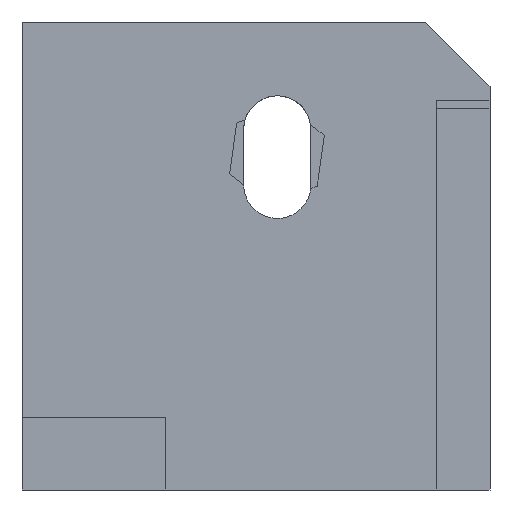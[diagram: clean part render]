
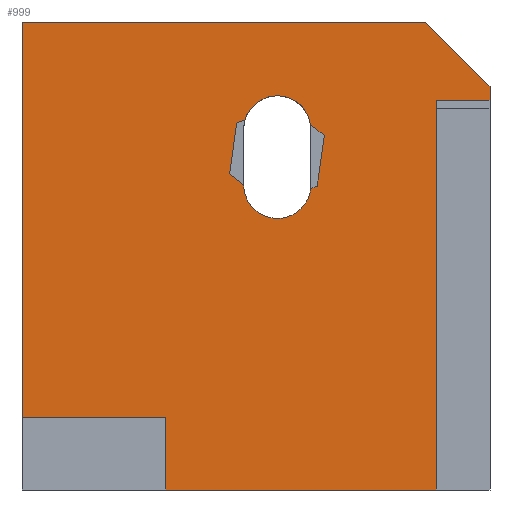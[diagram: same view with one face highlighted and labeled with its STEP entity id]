
A CAD part, left-side view. The second image highlights one B-rep face of the part: STEP entity #999.
In plain terms, the highlighted planar face has unit normal (-1, 0, 0).
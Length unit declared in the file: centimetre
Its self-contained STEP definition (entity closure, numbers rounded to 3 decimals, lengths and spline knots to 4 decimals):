
#1 = VERTEX_POINT ( 'NONE', #1086 ) ;
#2 = CARTESIAN_POINT ( 'NONE',  ( 0., 383.6776, 780.7083 ) ) ;
#6 = ORIENTED_EDGE ( 'NONE', *, *, #795, .F. ) ;
#25 = CARTESIAN_POINT ( 'NONE',  ( 0., 1000., 153.8963 ) ) ;
#37 = LINE ( 'NONE', #1087, #1344 ) ;
#43 = LINE ( 'NONE', #1188, #372 ) ;
#54 = LINE ( 'NONE', #1616, #213 ) ;
#59 = LINE ( 'NONE', #684, #424 ) ;
#67 = ORIENTED_EDGE ( 'NONE', *, *, #110, .F. ) ;
#68 = DIRECTION ( 'NONE',  ( 0., 0., 1. ) ) ;
#73 = CARTESIAN_POINT ( 'NONE',  ( 0., 1000., 1000. ) ) ;
#86 = CARTESIAN_POINT ( 'NONE',  ( 0., 0., 832.3437 ) ) ;
#98 = CARTESIAN_POINT ( 'NONE',  ( 0., 454.6598, 770.6199 ) ) ;
#110 = EDGE_CURVE ( 'NONE', #253, #857, #928, .T. ) ;
#123 = LINE ( 'NONE', #1038, #1199 ) ;
#148 = ORIENTED_EDGE ( 'NONE', *, *, #1366, .F. ) ;
#152 = VECTOR ( 'NONE', #1308, 100. ) ;
#172 = LINE ( 'NONE', #274, #700 ) ;
#208 = VERTEX_POINT ( 'NONE', #578 ) ;
#211 = EDGE_CURVE ( 'NONE', #612, #503, #1375, .T. ) ;
#213 = VECTOR ( 'NONE', #1516, 100. ) ;
#228 = DIRECTION ( 'NONE',  ( 0., -1., 0. ) ) ;
#237 = EDGE_CURVE ( 'NONE', #1674, #653, #54, .T. ) ;
#240 = EDGE_CURVE ( 'NONE', #1499, #1654, #321, .T. ) ;
#253 = VERTEX_POINT ( 'NONE', #1382 ) ;
#273 = DIRECTION ( 'NONE',  ( 0., 0.789, 0.615 ) ) ;
#274 = CARTESIAN_POINT ( 'NONE',  ( 0., 556.3865, 675.58 ) ) ;
#281 = CARTESIAN_POINT ( 'NONE',  ( 0., 454.417, 652.1618 ) ) ;
#283 = ORIENTED_EDGE ( 'NONE', *, *, #1261, .F. ) ;
#299 = CARTESIAN_POINT ( 'NONE',  ( 0., 382.9642, 643.8167 ) ) ;
#314 = VECTOR ( 'NONE', #228, 100. ) ;
#321 = LINE ( 'NONE', #1522, #900 ) ;
#335 = EDGE_CURVE ( 'NONE', #1098, #400, #909, .T. ) ;
#346 = CARTESIAN_POINT ( 'NONE',  ( 0., 115.0697, 832.3437 ) ) ;
#359 = DIRECTION ( 'NONE',  ( 0., 0., 1. ) ) ;
#372 = VECTOR ( 'NONE', #1322, 100. ) ;
#400 = VERTEX_POINT ( 'NONE', #346 ) ;
#424 = VECTOR ( 'NONE', #1084, 100. ) ;
#465 = VERTEX_POINT ( 'NONE', #830 ) ;
#466 = CARTESIAN_POINT ( 'NONE',  ( 0., 1000., 1000. ) ) ;
#468 = CARTESIAN_POINT ( 'NONE',  ( 0., 692.6911, 153.8963 ) ) ;
#469 = ORIENTED_EDGE ( 'NONE', *, *, #851, .F. ) ;
#497 = CARTESIAN_POINT ( 'NONE',  ( 0., 454.6598, 770.6199 ) ) ;
#503 = VERTEX_POINT ( 'NONE', #1202 ) ;
#533 = DIRECTION ( 'NONE',  ( 0., 0., 1. ) ) ;
#540 = VERTEX_POINT ( 'NONE', #1103 ) ;
#554 = EDGE_CURVE ( 'NONE', #465, #1098, #59, .T. ) ;
#578 = CARTESIAN_POINT ( 'NONE',  ( 0., 556.3865, 675.58 ) ) ;
#582 = VERTEX_POINT ( 'NONE', #1388 ) ;
#583 = CARTESIAN_POINT ( 'NONE',  ( 0., 1000., 0. ) ) ;
#593 = PLANE ( 'NONE',  #785 ) ;
#610 = CARTESIAN_POINT ( 'NONE',  ( 0., 454.6598, 842.3155 ) ) ;
#612 = VERTEX_POINT ( 'NONE', #466 ) ;
#628 = ORIENTED_EDGE ( 'NONE', *, *, #661, .T. ) ;
#634 = EDGE_CURVE ( 'NONE', #540, #1499, #1012, .T. ) ;
#637 = ORIENTED_EDGE ( 'NONE', *, *, #1618, .T. ) ;
#642 = EDGE_CURVE ( 'NONE', #664, #1, #1229, .T. ) ;
#643 = DIRECTION ( 'NONE',  ( 0., 0., -1. ) ) ;
#652 = CARTESIAN_POINT ( 'NONE',  ( 0., 115.0697, 0. ) ) ;
#653 = VERTEX_POINT ( 'NONE', #1254 ) ;
#661 = EDGE_CURVE ( 'NONE', #540, #1119, #865, .T. ) ;
#664 = VERTEX_POINT ( 'NONE', #610 ) ;
#666 = ORIENTED_EDGE ( 'NONE', *, *, #240, .F. ) ;
#672 = DIRECTION ( 'NONE',  ( -1., 0., 0. ) ) ;
#684 = CARTESIAN_POINT ( 'NONE',  ( 0., 0., 1000. ) ) ;
#689 = DIRECTION ( 'NONE',  ( 0., -0.789, -0.615 ) ) ;
#699 = DIRECTION ( 'NONE',  ( 0., -1., 0. ) ) ;
#700 = VECTOR ( 'NONE', #689, 100. ) ;
#707 = ORIENTED_EDGE ( 'NONE', *, *, #554, .F. ) ;
#725 = DIRECTION ( 'NONE',  ( 1., 0., 0. ) ) ;
#763 = AXIS2_PLACEMENT_3D ( 'NONE', #281, #672, #533 ) ;
#779 = LINE ( 'NONE', #1417, #927 ) ;
#785 = AXIS2_PLACEMENT_3D ( 'NONE', #73, #725, #1129 ) ;
#795 = EDGE_CURVE ( 'NONE', #653, #253, #123, .T. ) ;
#830 = CARTESIAN_POINT ( 'NONE',  ( 0., 0., 861.7948 ) ) ;
#838 = EDGE_CURVE ( 'NONE', #465, #503, #1063, .T. ) ;
#851 = EDGE_CURVE ( 'NONE', #857, #664, #896, .T. ) ;
#855 = ORIENTED_EDGE ( 'NONE', *, *, #838, .T. ) ;
#856 = CARTESIAN_POINT ( 'NONE',  ( 0., 0., 832.3437 ) ) ;
#857 = VERTEX_POINT ( 'NONE', #2 ) ;
#865 = LINE ( 'NONE', #583, #314 ) ;
#886 = LINE ( 'NONE', #1673, #953 ) ;
#888 = ORIENTED_EDGE ( 'NONE', *, *, #1659, .F. ) ;
#896 = CIRCLE ( 'NONE', #1036, 71.6956 ) ;
#900 = VECTOR ( 'NONE', #970, 100. ) ;
#907 = DIRECTION ( 'NONE',  ( 0., -0.138, 0.99 ) ) ;
#909 = LINE ( 'NONE', #86, #1282 ) ;
#927 = VECTOR ( 'NONE', #1311, 100. ) ;
#928 = LINE ( 'NONE', #1455, #986 ) ;
#953 = VECTOR ( 'NONE', #643, 100. ) ;
#970 = DIRECTION ( 'NONE',  ( 0., 1., 0. ) ) ;
#976 = ORIENTED_EDGE ( 'NONE', *, *, #1337, .F. ) ;
#984 = ORIENTED_EDGE ( 'NONE', *, *, #642, .F. ) ;
#986 = VECTOR ( 'NONE', #273, 100. ) ;
#999 = ADVANCED_FACE ( 'NONE', ( #1661, #1252 ), #593, .F. ) ;
#1012 = LINE ( 'NONE', #1663, #1092 ) ;
#1036 = AXIS2_PLACEMENT_3D ( 'NONE', #497, #1170, #359 ) ;
#1038 = CARTESIAN_POINT ( 'NONE',  ( 0., 369.0962, 649.4346 ) ) ;
#1042 = DIRECTION ( 'NONE',  ( 0., 1., 0. ) ) ;
#1060 = CARTESIAN_POINT ( 'NONE',  ( 0., 526.3554, 652.1618 ) ) ;
#1063 = LINE ( 'NONE', #1178, #152 ) ;
#1084 = DIRECTION ( 'NONE',  ( 0., 0., -1. ) ) ;
#1086 = CARTESIAN_POINT ( 'NONE',  ( 0., 523.411, 790.9555 ) ) ;
#1087 = CARTESIAN_POINT ( 'NONE',  ( 0., 541.2915, 783.7121 ) ) ;
#1092 = VECTOR ( 'NONE', #1397, 100. ) ;
#1098 = VERTEX_POINT ( 'NONE', #856 ) ;
#1103 = CARTESIAN_POINT ( 'NONE',  ( 0., 692.6911, 0. ) ) ;
#1104 = EDGE_CURVE ( 'NONE', #400, #1119, #886, .T. ) ;
#1119 = VERTEX_POINT ( 'NONE', #652 ) ;
#1129 = DIRECTION ( 'NONE',  ( 0., 0., -1. ) ) ;
#1170 = DIRECTION ( 'NONE',  ( -1., 0., 0. ) ) ;
#1173 = ORIENTED_EDGE ( 'NONE', *, *, #237, .F. ) ;
#1178 = CARTESIAN_POINT ( 'NONE',  ( 0., 138.2052, 1000. ) ) ;
#1188 = CARTESIAN_POINT ( 'NONE',  ( 0., 440.0988, 824.7055 ) ) ;
#1199 = VECTOR ( 'NONE', #907, 100. ) ;
#1202 = CARTESIAN_POINT ( 'NONE',  ( 0., 138.2052, 1000. ) ) ;
#1227 = EDGE_LOOP ( 'NONE', ( #628, #1680, #1501, #707, #855, #1394, #637, #666, #1646 ) ) ;
#1229 = CIRCLE ( 'NONE', #1446, 71.6956 ) ;
#1252 = FACE_OUTER_BOUND ( 'NONE', #1227, .T. ) ;
#1254 = CARTESIAN_POINT ( 'NONE',  ( 0., 369.0962, 649.4346 ) ) ;
#1257 = CARTESIAN_POINT ( 'NONE',  ( 0., 1000., 1000. ) ) ;
#1261 = EDGE_CURVE ( 'NONE', #1263, #1674, #1696, .T. ) ;
#1263 = VERTEX_POINT ( 'NONE', #1060 ) ;
#1267 = DIRECTION ( 'NONE',  ( -1., 0., 0. ) ) ;
#1282 = VECTOR ( 'NONE', #1042, 100. ) ;
#1293 = VECTOR ( 'NONE', #699, 100. ) ;
#1308 = DIRECTION ( 'NONE',  ( 0., 0.707, 0.707 ) ) ;
#1311 = DIRECTION ( 'NONE',  ( 0., 0., -1. ) ) ;
#1322 = DIRECTION ( 'NONE',  ( 0., 0.927, -0.375 ) ) ;
#1329 = DIRECTION ( 'NONE',  ( 0., 0.138, -0.99 ) ) ;
#1337 = EDGE_CURVE ( 'NONE', #582, #208, #37, .T. ) ;
#1344 = VECTOR ( 'NONE', #1329, 100. ) ;
#1366 = EDGE_CURVE ( 'NONE', #208, #1263, #172, .T. ) ;
#1375 = LINE ( 'NONE', #1257, #1293 ) ;
#1382 = CARTESIAN_POINT ( 'NONE',  ( 0., 354.0012, 757.5668 ) ) ;
#1388 = CARTESIAN_POINT ( 'NONE',  ( 0., 541.2915, 783.7121 ) ) ;
#1394 = ORIENTED_EDGE ( 'NONE', *, *, #211, .F. ) ;
#1397 = DIRECTION ( 'NONE',  ( 0., 0., 1. ) ) ;
#1417 = CARTESIAN_POINT ( 'NONE',  ( 0., 1000., 1000. ) ) ;
#1446 = AXIS2_PLACEMENT_3D ( 'NONE', #98, #1267, #68 ) ;
#1455 = CARTESIAN_POINT ( 'NONE',  ( 0., 354.0012, 757.5668 ) ) ;
#1499 = VERTEX_POINT ( 'NONE', #468 ) ;
#1501 = ORIENTED_EDGE ( 'NONE', *, *, #335, .F. ) ;
#1516 = DIRECTION ( 'NONE',  ( 0., -0.927, 0.375 ) ) ;
#1522 = CARTESIAN_POINT ( 'NONE',  ( 0., 692.6911, 153.8963 ) ) ;
#1560 = EDGE_LOOP ( 'NONE', ( #1173, #283, #148, #976, #888, #984, #469, #67, #6 ) ) ;
#1616 = CARTESIAN_POINT ( 'NONE',  ( 0., 470.2889, 608.4413 ) ) ;
#1618 = EDGE_CURVE ( 'NONE', #612, #1654, #779, .T. ) ;
#1646 = ORIENTED_EDGE ( 'NONE', *, *, #634, .F. ) ;
#1654 = VERTEX_POINT ( 'NONE', #25 ) ;
#1659 = EDGE_CURVE ( 'NONE', #1, #582, #43, .T. ) ;
#1661 = FACE_BOUND ( 'NONE', #1560, .T. ) ;
#1663 = CARTESIAN_POINT ( 'NONE',  ( 0., 692.6911, 0. ) ) ;
#1673 = CARTESIAN_POINT ( 'NONE',  ( 0., 115.0697, 832.3437 ) ) ;
#1674 = VERTEX_POINT ( 'NONE', #299 ) ;
#1680 = ORIENTED_EDGE ( 'NONE', *, *, #1104, .F. ) ;
#1696 = CIRCLE ( 'NONE', #763, 71.9384 ) ;
